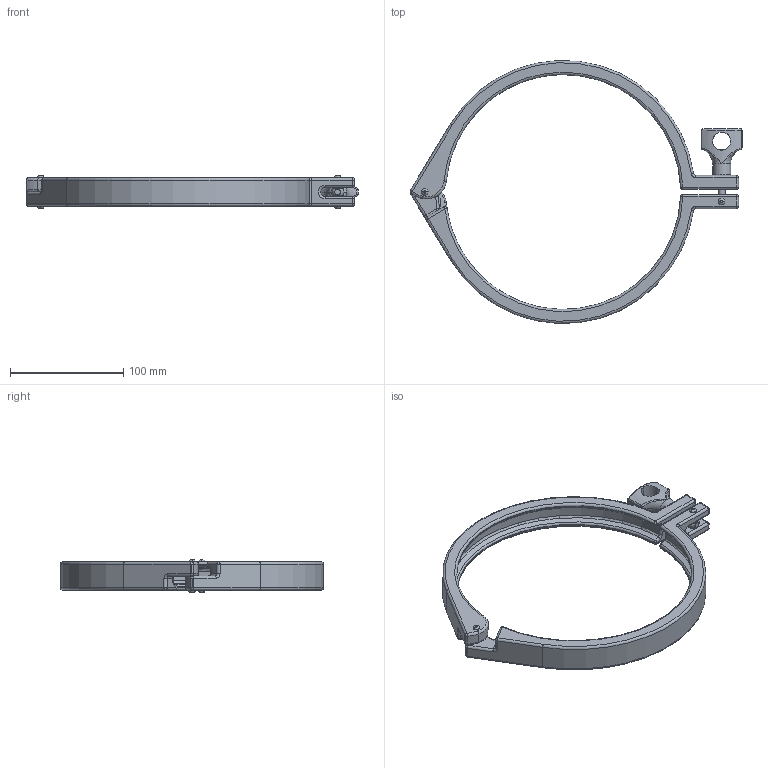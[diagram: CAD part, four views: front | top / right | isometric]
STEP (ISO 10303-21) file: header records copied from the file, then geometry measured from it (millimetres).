
FILE_DESCRIPTION (( 'STEP AP203' ), '1' );
FILE_NAME ('13MHHM8.0-H.STEP', '2024-06-19T08:58:05', ( '' ), ( '' ), 'SwSTEP 2.0', 'SolidWorks 2014', '' );
FILE_SCHEMA (( 'CONFIG_CONTROL_DESIGN' ));
Length unit declared in the file: millimetre
Products named in the file (15): 13MHHM-PART-4; 13MHHM8.0-H; 13MHHM-PARTS-6-2-6.0; 13MHHM-PARTS-6-1-6.0; Wing Nut 14; CLAMP8.0-2; CLAMP8.0-1
Assembly tree (8 placements, depth 2):
  13MHHM8.0-H
    CLAMP8.0-1
    CLAMP8.0-2
    13MHHM-PARTS-6-1-6.0  x2
    13MHHM-PARTS-6-2-6.0  x2
    13MHHM-PART-4
    Wing Nut 14
  13MHHM-PARTS-6-2-6.0
  13MHHM-PARTS-6-2-6.0
  13MHHM-PARTS-6-1-6.0
  13MHHM-PARTS-6-1-6.0
Bounding box: 293.01 x 232.08 x 29 mm (x, y, z)
Volume: 189797.3 mm3; surface area: 71077.7 mm2
Topology: 8 solids, 8 shells, 353 faces, 802 edges, 424 vertices
Faces by surface type: cylinder 124, torus 85, sphere 52, plane 46, bspline 42, cone 4
Entity records: 12268 total; most frequent: CARTESIAN_POINT 3746, DIRECTION 1659, ORIENTED_EDGE 1424, AXIS2_PLACEMENT_3D 737, EDGE_CURVE 712, CIRCLE 435, VERTEX_POINT 394, EDGE_LOOP 348
